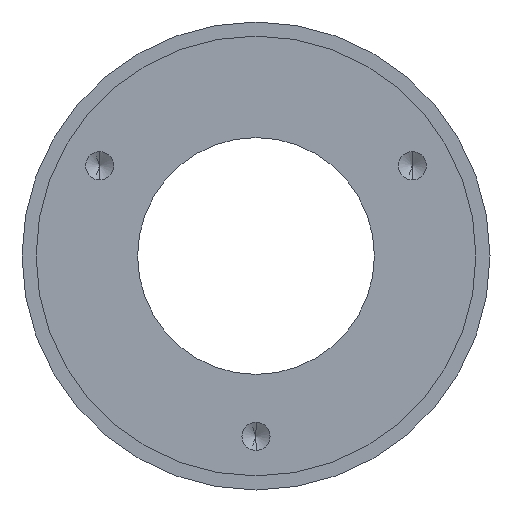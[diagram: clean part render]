
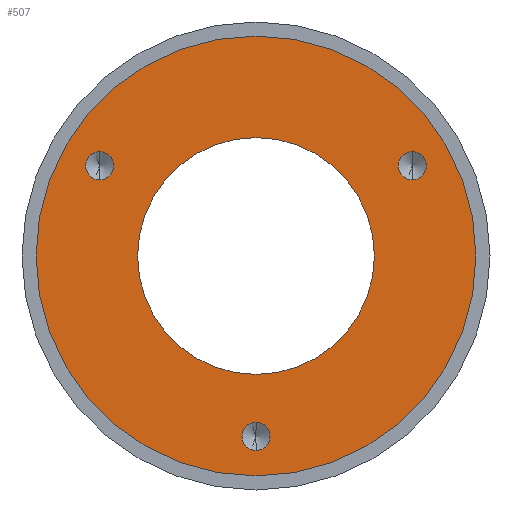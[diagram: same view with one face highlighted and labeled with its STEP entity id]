
A CAD part, front view. The second image highlights one B-rep face of the part: STEP entity #507.
In plain terms, the highlighted planar face has unit normal (0, -1, 0).
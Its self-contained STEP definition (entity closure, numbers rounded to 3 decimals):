
#44 = CARTESIAN_POINT ( 'NONE',  ( 0., 0., 0. ) ) ;
#118 = ORIENTED_EDGE ( 'NONE', *, *, #4003, .F. ) ;
#260 = DIRECTION ( 'NONE',  ( 0., 0., 1. ) ) ;
#303 = CIRCLE ( 'NONE', #3638, 10.5 ) ;
#412 = AXIS2_PLACEMENT_3D ( 'NONE', #5796, #5303, #721 ) ;
#449 = CARTESIAN_POINT ( 'NONE',  ( 0., 0., 0. ) ) ;
#505 = AXIS2_PLACEMENT_3D ( 'NONE', #5695, #5635, #4089 ) ;
#507 = ADVANCED_FACE ( 'NONE', ( #2034, #5594, #3173, #6609, #3647 ), #3678, .F. ) ;
#538 = VERTEX_POINT ( 'NONE', #3046 ) ;
#550 = CARTESIAN_POINT ( 'NONE',  ( -13.856, 0., 8. ) ) ;
#621 = AXIS2_PLACEMENT_3D ( 'NONE', #4090, #2074, #4614 ) ;
#636 = AXIS2_PLACEMENT_3D ( 'NONE', #44, #6579, #4046 ) ;
#709 = VERTEX_POINT ( 'NONE', #6507 ) ;
#721 = DIRECTION ( 'NONE',  ( 0., 0., -1. ) ) ;
#793 = EDGE_CURVE ( 'NONE', #538, #921, #5957, .T. ) ;
#807 = DIRECTION ( 'NONE',  ( 0., 1., 0. ) ) ;
#877 = DIRECTION ( 'NONE',  ( 0., 1., 0. ) ) ;
#907 = DIRECTION ( 'NONE',  ( 0., 0., 1. ) ) ;
#921 = VERTEX_POINT ( 'NONE', #3094 ) ;
#1086 = DIRECTION ( 'NONE',  ( 0., 0., 1. ) ) ;
#1181 = ORIENTED_EDGE ( 'NONE', *, *, #3373, .F. ) ;
#1197 = EDGE_CURVE ( 'NONE', #4836, #4895, #5532, .T. ) ;
#1208 = CARTESIAN_POINT ( 'NONE',  ( 0., 0., -17.25 ) ) ;
#1361 = DIRECTION ( 'NONE',  ( 0., 0., -1. ) ) ;
#1453 = EDGE_LOOP ( 'NONE', ( #1181, #3535 ) ) ;
#1479 = VERTEX_POINT ( 'NONE', #3421 ) ;
#1804 = VERTEX_POINT ( 'NONE', #1208 ) ;
#1830 = EDGE_CURVE ( 'NONE', #3223, #1479, #2761, .T. ) ;
#1907 = CARTESIAN_POINT ( 'NONE',  ( 13.856, 0., 6.75 ) ) ;
#1958 = ORIENTED_EDGE ( 'NONE', *, *, #2308, .F. ) ;
#2034 = FACE_BOUND ( 'NONE', #3333, .T. ) ;
#2074 = DIRECTION ( 'NONE',  ( 0., -1., 0. ) ) ;
#2090 = EDGE_LOOP ( 'NONE', ( #1958, #118 ) ) ;
#2137 = CIRCLE ( 'NONE', #636, 19.5 ) ;
#2308 = EDGE_CURVE ( 'NONE', #1804, #4999, #5966, .T. ) ;
#2441 = AXIS2_PLACEMENT_3D ( 'NONE', #449, #6101, #1086 ) ;
#2761 = CIRCLE ( 'NONE', #4477, 19.5 ) ;
#2812 = VERTEX_POINT ( 'NONE', #2832 ) ;
#2832 = CARTESIAN_POINT ( 'NONE',  ( -13.856, 0., 9.25 ) ) ;
#2893 = AXIS2_PLACEMENT_3D ( 'NONE', #3924, #5940, #1361 ) ;
#2897 = CIRCLE ( 'NONE', #3322, 1.25 ) ;
#2917 = DIRECTION ( 'NONE',  ( 0., 0., -1. ) ) ;
#2945 = CARTESIAN_POINT ( 'NONE',  ( 0., 0., 0. ) ) ;
#3000 = CIRCLE ( 'NONE', #2893, 1.25 ) ;
#3030 = EDGE_CURVE ( 'NONE', #921, #538, #303, .T. ) ;
#3046 = CARTESIAN_POINT ( 'NONE',  ( 0., 0., 10.5 ) ) ;
#3094 = CARTESIAN_POINT ( 'NONE',  ( 0., 0., -10.5 ) ) ;
#3173 = FACE_BOUND ( 'NONE', #2090, .T. ) ;
#3223 = VERTEX_POINT ( 'NONE', #5378 ) ;
#3264 = EDGE_LOOP ( 'NONE', ( #6363, #5607 ) ) ;
#3270 = ORIENTED_EDGE ( 'NONE', *, *, #793, .T. ) ;
#3322 = AXIS2_PLACEMENT_3D ( 'NONE', #5936, #3414, #2917 ) ;
#3333 = EDGE_LOOP ( 'NONE', ( #3714, #6479 ) ) ;
#3336 = CARTESIAN_POINT ( 'NONE',  ( 0., 0., 0. ) ) ;
#3373 = EDGE_CURVE ( 'NONE', #4895, #4836, #3000, .T. ) ;
#3414 = DIRECTION ( 'NONE',  ( 0., -1., 0. ) ) ;
#3421 = CARTESIAN_POINT ( 'NONE',  ( 0., 0., -19.5 ) ) ;
#3535 = ORIENTED_EDGE ( 'NONE', *, *, #1197, .F. ) ;
#3638 = AXIS2_PLACEMENT_3D ( 'NONE', #4858, #807, #260 ) ;
#3647 = FACE_OUTER_BOUND ( 'NONE', #3264, .T. ) ;
#3678 = PLANE ( 'NONE',  #2441 ) ;
#3714 = ORIENTED_EDGE ( 'NONE', *, *, #4142, .F. ) ;
#3750 = CIRCLE ( 'NONE', #3859, 1.25 ) ;
#3859 = AXIS2_PLACEMENT_3D ( 'NONE', #550, #5169, #4663 ) ;
#3906 = EDGE_CURVE ( 'NONE', #2812, #709, #6177, .T. ) ;
#3924 = CARTESIAN_POINT ( 'NONE',  ( 13.856, 0., 8. ) ) ;
#4003 = EDGE_CURVE ( 'NONE', #4999, #1804, #2897, .T. ) ;
#4046 = DIRECTION ( 'NONE',  ( 0., 0., 1. ) ) ;
#4089 = DIRECTION ( 'NONE',  ( 0., 0., -1. ) ) ;
#4090 = CARTESIAN_POINT ( 'NONE',  ( 0., 0., -16. ) ) ;
#4128 = ORIENTED_EDGE ( 'NONE', *, *, #3030, .T. ) ;
#4142 = EDGE_CURVE ( 'NONE', #709, #2812, #3750, .T. ) ;
#4477 = AXIS2_PLACEMENT_3D ( 'NONE', #3336, #877, #907 ) ;
#4614 = DIRECTION ( 'NONE',  ( 0., 0., -1. ) ) ;
#4663 = DIRECTION ( 'NONE',  ( 0., 0., -1. ) ) ;
#4836 = VERTEX_POINT ( 'NONE', #5734 ) ;
#4858 = CARTESIAN_POINT ( 'NONE',  ( 0., 0., 0. ) ) ;
#4870 = DIRECTION ( 'NONE',  ( 0., 1., 0. ) ) ;
#4895 = VERTEX_POINT ( 'NONE', #1907 ) ;
#4999 = VERTEX_POINT ( 'NONE', #5600 ) ;
#5169 = DIRECTION ( 'NONE',  ( 0., -1., 0. ) ) ;
#5303 = DIRECTION ( 'NONE',  ( 0., -1., 0. ) ) ;
#5367 = DIRECTION ( 'NONE',  ( 0., 0., 1. ) ) ;
#5378 = CARTESIAN_POINT ( 'NONE',  ( 0., 0., 19.5 ) ) ;
#5532 = CIRCLE ( 'NONE', #505, 1.25 ) ;
#5594 = FACE_BOUND ( 'NONE', #1453, .T. ) ;
#5600 = CARTESIAN_POINT ( 'NONE',  ( 0., 0., -14.75 ) ) ;
#5607 = ORIENTED_EDGE ( 'NONE', *, *, #1830, .F. ) ;
#5635 = DIRECTION ( 'NONE',  ( 0., -1., 0. ) ) ;
#5695 = CARTESIAN_POINT ( 'NONE',  ( 13.856, 0., 8. ) ) ;
#5734 = CARTESIAN_POINT ( 'NONE',  ( 13.856, 0., 9.25 ) ) ;
#5796 = CARTESIAN_POINT ( 'NONE',  ( -13.856, 0., 8. ) ) ;
#5848 = EDGE_CURVE ( 'NONE', #1479, #3223, #2137, .T. ) ;
#5936 = CARTESIAN_POINT ( 'NONE',  ( 0., 0., -16. ) ) ;
#5940 = DIRECTION ( 'NONE',  ( 0., -1., 0. ) ) ;
#5957 = CIRCLE ( 'NONE', #6062, 10.5 ) ;
#5966 = CIRCLE ( 'NONE', #621, 1.25 ) ;
#6062 = AXIS2_PLACEMENT_3D ( 'NONE', #2945, #4870, #5367 ) ;
#6101 = DIRECTION ( 'NONE',  ( 0., 1., 0. ) ) ;
#6177 = CIRCLE ( 'NONE', #412, 1.25 ) ;
#6231 = EDGE_LOOP ( 'NONE', ( #3270, #4128 ) ) ;
#6363 = ORIENTED_EDGE ( 'NONE', *, *, #5848, .F. ) ;
#6479 = ORIENTED_EDGE ( 'NONE', *, *, #3906, .F. ) ;
#6507 = CARTESIAN_POINT ( 'NONE',  ( -13.856, 0., 6.75 ) ) ;
#6579 = DIRECTION ( 'NONE',  ( 0., 1., 0. ) ) ;
#6609 = FACE_BOUND ( 'NONE', #6231, .T. ) ;
